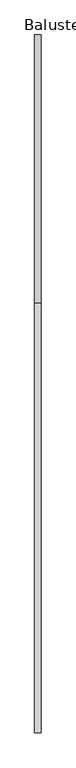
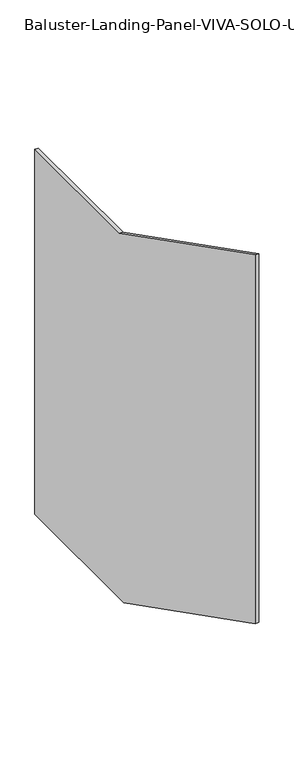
"""IFC4 building model written with IfcOpenShell, lengths in millimetres: railing geometry, Baluster-Landing-Panel-VIVA-SOLO-Upper : Standard_Glass."""

from ifc_helpers import new_model, si_unit, frame, origin, place, context, project, spatial, polyline, outline, extrude, source, transform, mapped, element, save


def baluster_landing_panel_viva_solo_upper_standard_glass_f4311c0a(model_context):
    return source(origin(), model_context, "Body", "SweptSolid", [
        extrude(outline(polyline([(629.6377199, 1109.345), (1021.9757429, 1109.345), (1021.9757429, 75.5344139), (609.0084669, 75.5344139), (0.0, 385.572), (0.0, 1429.8846467), (629.6377199, 1109.345)])), frame((31.6077292, 0.0, 0.0), z_axis=(1.0, 0.0, 0.0), x_axis=(0.0, 1.0, 0.0)), (0.0, 0.0, 1.0), 9.525),
    ])


if __name__ == "__main__":
    model = new_model("IFC4")
    model_context = context("Model", 3, world=origin())
    ifc_project = project(units=[si_unit("LENGTHUNIT", "METRE", prefix="MILLI")], contexts=[model_context])
    site = spatial("IfcSite", under=ifc_project)
    building = spatial("IfcBuilding", under=site)
    placement = place(None, origin())
    baluster_landing_panel_viva_solo_upper_standard_glass_shape = baluster_landing_panel_viva_solo_upper_standard_glass_f4311c0a(model_context)
    element("IfcRailing", 1, ObjectType="Baluster-Landing-Panel-VIVA-SOLO-Upper : Standard_Glass", at=placement, inside=building, context=model_context, shape_type="MappedRepresentation", body=[
        mapped(baluster_landing_panel_viva_solo_upper_standard_glass_shape, transform((0.0, 0.0, 0.0), x_axis=(1.0, 0.0, 0.0), y_axis=(0.0, 1.0, 0.0), z_axis=(0.0, 0.0, 1.0))),
    ])
    save(model, "model.ifc")
